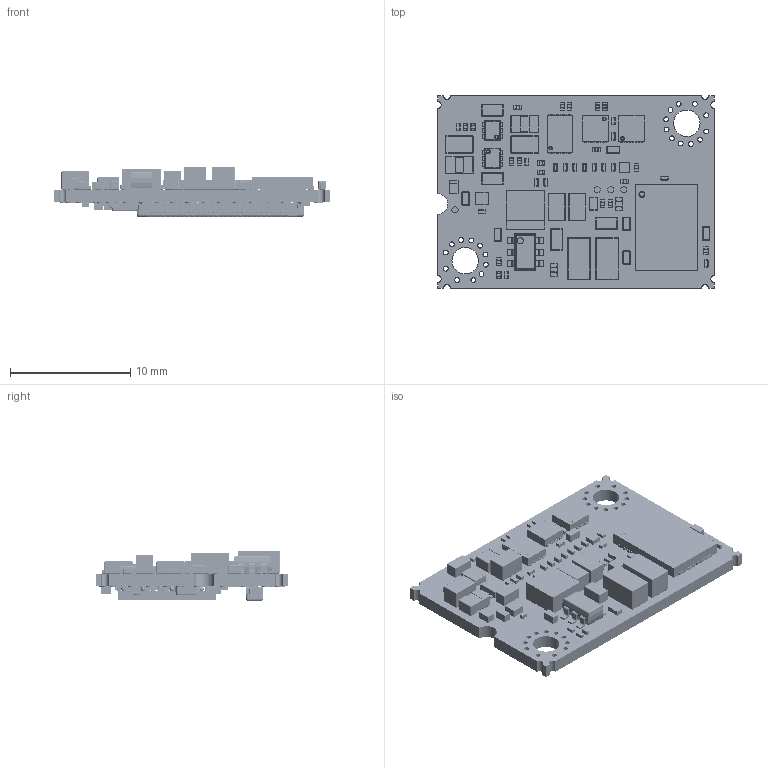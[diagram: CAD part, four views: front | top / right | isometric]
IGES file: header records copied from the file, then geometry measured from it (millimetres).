
Start section:  PTC IGES file: 809635_ESCON2_Nano_24-2.igs
Global section: file name: 809635_ESCON2_Nano_24-2.igs; native system: Creo Parametric by PTC Inc.; preprocessor: 2022484; author: MMAGGUKA; organization: Unknown; date: 20241011.111114; units: millimetre
Bounding box: 23 x 16 x 4.21 mm (x, y, z)
Surface area: 1602.6 mm2 (no closed solid volume)
Topology: 0 solids, 0 shells, 8394 faces, 42408 edges, 41266 vertices
Faces by surface type: bspline 4372, revolution 4022
